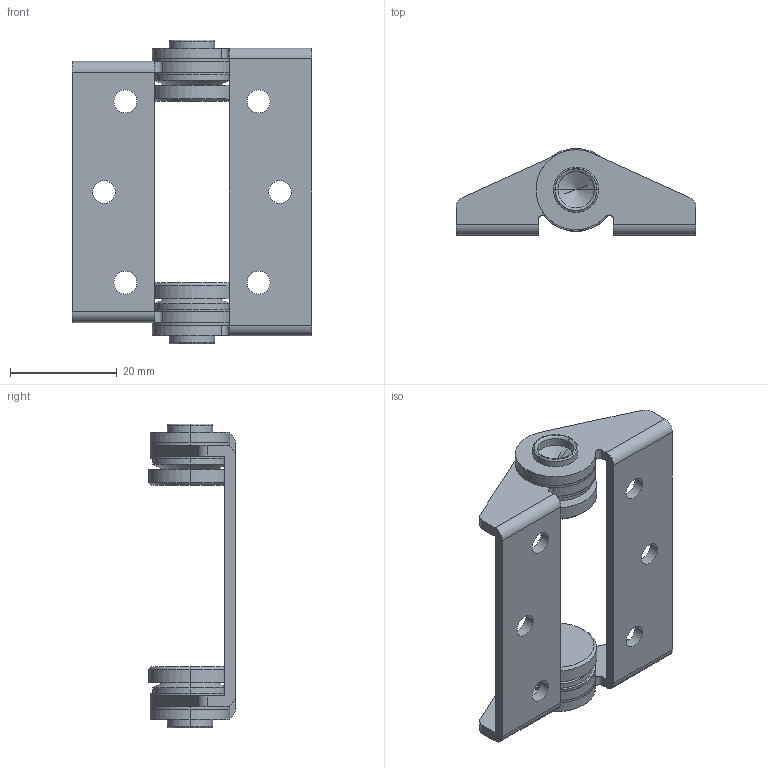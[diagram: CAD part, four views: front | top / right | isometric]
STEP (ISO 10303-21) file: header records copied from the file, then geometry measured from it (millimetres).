
FILE_DESCRIPTION (( 'STEP AP203' ), '1' );
FILE_NAME ('XG11-014-1.STEP', '2023-12-04T07:02:26', ( '' ), ( '' ), 'SwSTEP 2.0', 'SolidWorks 2020', '' );
FILE_SCHEMA (( 'CONFIG_CONTROL_DESIGN' ));
Length unit declared in the file: millimetre
Products named in the file (1): XG11-014-1
Bounding box: 45 x 16.25 x 57 mm (x, y, z)
Volume: 7376.3 mm3; surface area: 9470.4 mm2
Topology: 10 solids, 10 shells, 132 faces, 310 edges, 198 vertices
Faces by surface type: cylinder 74, plane 38, cone 12, torus 8
Entity records: 3941 total; most frequent: DIRECTION 744, CARTESIAN_POINT 637, ORIENTED_EDGE 612, EDGE_CURVE 306, AXIS2_PLACEMENT_3D 305, VERTEX_POINT 198, CIRCLE 172, EDGE_LOOP 168
